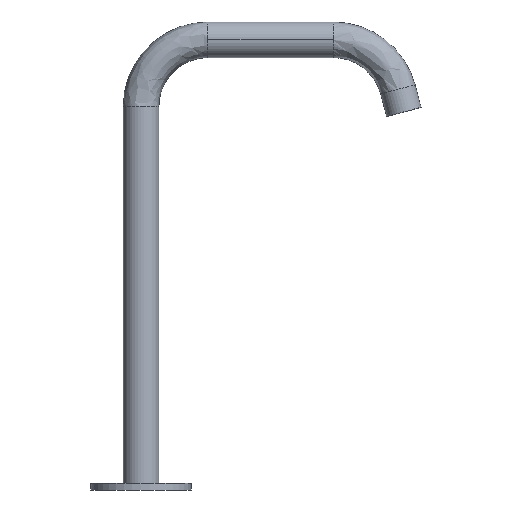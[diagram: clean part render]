
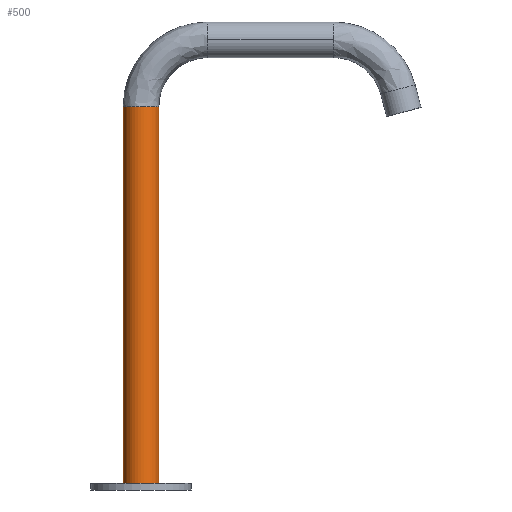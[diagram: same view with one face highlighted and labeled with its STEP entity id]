
A CAD part, left-side view. The second image highlights one B-rep face of the part: STEP entity #500.
In plain terms, the highlighted cylindrical face has radius 10.65 mm (diameter 21.3 mm), a partial arc.
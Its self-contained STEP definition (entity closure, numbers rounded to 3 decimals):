
#189=CARTESIAN_POINT('',(0.0,-10.65,229.35));
#190=VERTEX_POINT('',#189);
#191=CARTESIAN_POINT('',(0.0,10.65,229.35));
#192=VERTEX_POINT('',#191);
#463=CARTESIAN_POINT('',(0.0,0.,229.35));
#464=DIRECTION('',(0.0,0.0,-1.0));
#465=DIRECTION('',(1.0,0.0,0.0));
#466=AXIS2_PLACEMENT_3D('',#463,#464,#465);
#467=CYLINDRICAL_SURFACE('',#466,10.65);
#468=CARTESIAN_POINT('',(0.0,0.,229.35));
#469=DIRECTION('',(0.0,0.0,1.0));
#470=DIRECTION('',(-1.0,0.0,0.0));
#471=AXIS2_PLACEMENT_3D('',#468,#469,#470);
#472=CIRCLE('',#471,10.65);
#473=EDGE_CURVE('',#192,#190,#472,.T.);
#474=ORIENTED_EDGE('',*,*,#473,.F.);
#475=CARTESIAN_POINT('',(0.0,10.65,4.0));
#476=VERTEX_POINT('',#475);
#477=CARTESIAN_POINT('',(0.0,10.65,229.35));
#478=DIRECTION('',(0.0,0.0,-1.0));
#479=VECTOR('',#478,225.35);
#480=LINE('',#477,#479);
#481=EDGE_CURVE('',#192,#476,#480,.T.);
#482=ORIENTED_EDGE('',*,*,#481,.T.);
#483=CARTESIAN_POINT('',(0.0,-10.65,4.0));
#484=VERTEX_POINT('',#483);
#485=CARTESIAN_POINT('',(0.0,0.0,4.0));
#486=DIRECTION('',(0.0,0.0,1.0));
#487=DIRECTION('',(-1.0,0.0,0.0));
#488=AXIS2_PLACEMENT_3D('',#485,#486,#487);
#489=CIRCLE('',#488,10.65);
#490=EDGE_CURVE('',#476,#484,#489,.T.);
#491=ORIENTED_EDGE('',*,*,#490,.T.);
#492=CARTESIAN_POINT('',(0.0,-10.65,229.35));
#493=DIRECTION('',(0.0,0.0,-1.0));
#494=VECTOR('',#493,225.35);
#495=LINE('',#492,#494);
#496=EDGE_CURVE('',#190,#484,#495,.T.);
#497=ORIENTED_EDGE('',*,*,#496,.F.);
#498=EDGE_LOOP('',(#474,#482,#491,#497));
#499=FACE_OUTER_BOUND('',#498,.T.);
#500=ADVANCED_FACE('',(#499),#467,.T.);
